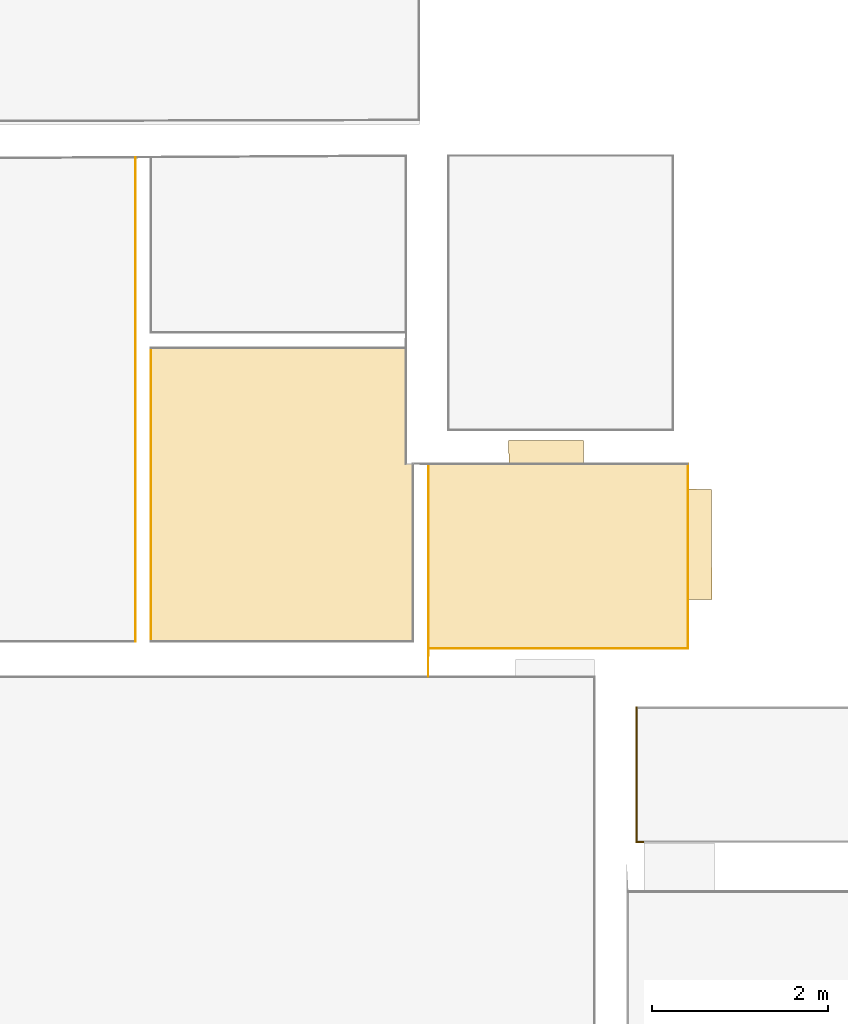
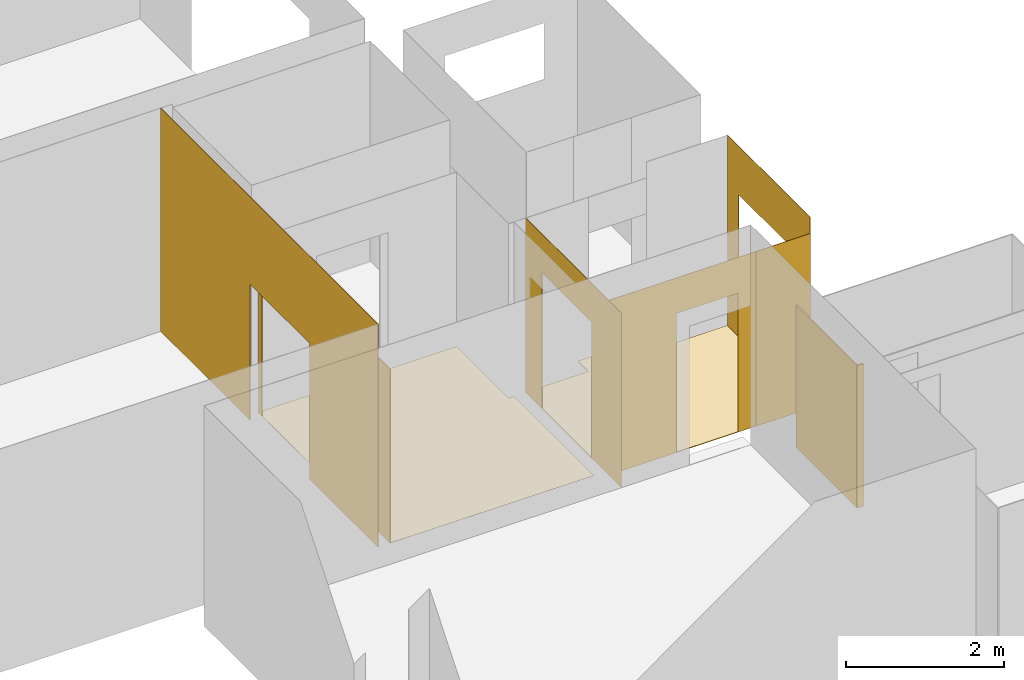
# One storey, part 13 of 33: 10 coverings, 5 openings.
"""IFC2X3 building model written with IfcOpenShell, lengths in millimetres."""

from ifc_helpers import new_model, entity, si_unit, converted_unit, derived_unit, money_unit, direction, frame, origin_with_axes, origin_2d_with_axis, place, context, subcontext, project, spatial, polyline, rectangle, outline, extrude, material, type_object, element, save


model = new_model("IFC2X3")

# Units and contexts
model_context = context("Model", 3, precision=0.01, world=origin_with_axes(), true_north=direction((0.0, 1.0)))
body_context = subcontext(model_context, "Body", "Model", "MODEL_VIEW")
ifc_project = project(units=[si_unit("LENGTHUNIT", "METRE", prefix="MILLI"), si_unit("AREAUNIT", "SQUARE_METRE"), si_unit("VOLUMEUNIT", "CUBIC_METRE"), converted_unit("PLANEANGLEUNIT", "DEGREE", entity("IfcPlaneAngleMeasure", 0.0174532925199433), si_unit("PLANEANGLEUNIT", "RADIAN"), dimensions=[0, 0, 0, 0, 0, 0, 0]), money_unit("EUR"), converted_unit("TIMEUNIT", "Year", entity("IfcTimeMeasure", 31556926.0), si_unit("TIMEUNIT", "SECOND"), dimensions=[0, 0, 1, 0, 0, 0, 0]), si_unit("MASSUNIT", "GRAM", prefix="KILO"), si_unit("THERMODYNAMICTEMPERATUREUNIT", "DEGREE_CELSIUS"), si_unit("LUMINOUSINTENSITYUNIT", "LUMEN"), si_unit("ENERGYUNIT", "JOULE", prefix="MEGA"), derived_unit("THERMALCONDUCTANCEUNIT", [(si_unit("POWERUNIT", "WATT"), 1), (si_unit("LENGTHUNIT", "METRE"), -1), (si_unit("THERMODYNAMICTEMPERATUREUNIT", "KELVIN"), -1)]), derived_unit("SPECIFICHEATCAPACITYUNIT", [(si_unit("ENERGYUNIT", "JOULE"), 1), (si_unit("MASSUNIT", "GRAM", prefix="KILO"), -1), (si_unit("THERMODYNAMICTEMPERATUREUNIT", "KELVIN"), -1)]), derived_unit("MASSDENSITYUNIT", [(si_unit("MASSUNIT", "GRAM", prefix="KILO"), 1), (si_unit("VOLUMEUNIT", "CUBIC_METRE"), -1)])], contexts=[model_context])

# Site, building, storey
site_placement = place(None, origin_with_axes())
site = spatial("IfcSite", under=ifc_project, at=site_placement, Name="Paldiski mnt 245/1, Tallinn, Harjumaa", CompositionType="COMPLEX")
building_placement = place(site_placement, origin_with_axes())
building = spatial("IfcBuilding", under=site, at=building_placement, Name="RKAS Hoone üldnimetus (kasutust iseloomustav) -> IFC Project Manager -> SOLIBRI", CompositionType="ELEMENT")
storey_placement = place(building_placement, origin_with_axes())
storey = spatial("IfcBuildingStorey", under=building, at=storey_placement, Name="Esimene korrus", CompositionType="ELEMENT", Elevation=0.0)

# Coverings
ifc_material_1 = material(Name="SA- PM-7 plaat 15x15")
covering_type_1 = type_object("IfcCoveringType", Name="SA- PM-7 plaat 15x15 8", PredefinedType="FLOORING")
covering_1_placement = place(storey_placement, frame((-49299.99999999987, 6150.000000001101, 0.0), z_axis=(0.0, 0.0, 1.0), x_axis=(1.0, 0.0, 0.0)))
element("IfcCovering", 1, at=covering_1_placement, inside=storey, type_object=covering_type_1, material=ifc_material_1, Name="PM-7", PredefinedType="FLOORING", context=body_context, shape_type="SweptSolid", body=[
    extrude(outline(polyline([(0.0, 0.0), (1960.000000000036, 0.0), (1960.000000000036, 559.8287243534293), (2230.000000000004, 559.8287118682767), (2227.902222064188, 1809.846262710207), (1959.999995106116, 1812.089257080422), (1960.000000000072, 2099.99999999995), (775.0024094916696, 2099.999999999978), (774.7929300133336, 2365.175309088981), (-75.58296767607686, 2365.417993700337), (-74.99758190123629, 2099.999999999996), (-989.999999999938, 2100.000000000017), (-989.9999999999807, 0.0), (0.0, 0.0)])), origin_with_axes(), (0.0, 0.0, 1.0), 8.0),
])
ifc_material_2 = material(Name="SA- Värv SM5(valge)")
covering_type_2 = type_object("IfcCoveringType", Name="SA- Värv SM5(valge) 5", PredefinedType="CLADDING")
covering_2_placement = place(storey_placement, frame((-48139.99999999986, 6150.00000000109, 0.0), z_axis=(0.0, 0.0, 1.0), x_axis=(1.0, 0.0, 0.0)))
element("IfcCovering", 2, at=covering_2_placement, inside=storey, type_object=covering_type_2, material=ifc_material_2, Name="SM5", PredefinedType="CLADDING", context=body_context, shape_type="SweptSolid", body=[
    extrude(outline(polyline([(0.0, 0.0), (800.0000000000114, 0.0), (800.0000000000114, 4.999999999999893), (0.0, 4.999999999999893), (0.0, 0.0)])), origin_with_axes(), (0.0, 0.0, 1.0), 2700.0),
])

# Covering, opening
covering_3_placement = place(storey_placement, frame((-50289.99999999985, 6150.000000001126, 0.0), z_axis=(0.0, 0.0, 1.0), x_axis=(1.0, 0.0, 0.0)))
covering_3 = element("IfcCovering", 3, at=covering_3_placement, inside=storey, type_object=covering_type_2, material=ifc_material_2, Name="SM5", PredefinedType="CLADDING", context=body_context, shape_type="SweptSolid", body=[
    extrude(outline(polyline([(5.000000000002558, 0.0), (2149.999999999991, 0.0), (2149.999999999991, 4.999999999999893), (5.000000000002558, 4.999999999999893), (5.000000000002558, 0.0)])), origin_with_axes(), (0.0, 0.0, 1.0), 2700.0),
])
opening_1_placement = place(covering_3_placement, frame((50289.99999999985, -6150.000000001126, 0.0), z_axis=(0.0, 0.0, 1.0), x_axis=(1.0, 0.0, 0.0)))
element("IfcOpeningElement", 4, at=opening_1_placement, cuts=covering_3, Name="AVA", ObjectType="OPENING", context=body_context, shape_type="SweptSolid", body=[
    extrude(rectangle(XDim=899.999999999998, YDim=2150.0, at=origin_2d_with_axis()), frame((-48849.99999999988, 6145.000000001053, 1075.0), z_axis=(0.0, -1.0, 0.0), x_axis=(1.0, 0.0, 0.0)), (0.0, 0.0, -1.0), 15.00000000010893),
])

covering_4_placement = place(storey_placement, frame((-50289.99999999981, 8250.000000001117, 0.0), z_axis=(0.0, 0.0, 1.0), x_axis=(0.0, -1.0, 0.0)))
covering_4 = element("IfcCovering", 5, at=covering_4_placement, inside=storey, type_object=covering_type_2, material=ifc_material_2, Name="SM5", PredefinedType="CLADDING", context=body_context, shape_type="SweptSolid", body=[
    extrude(outline(polyline([(0.0, 0.0), (2419.999999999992, 0.0), (2099.999999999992, 5.000000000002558), (0.0, 5.000000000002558), (0.0, 0.0)])), origin_with_axes(), (0.0, 0.0, 1.0), 2700.0),
])
opening_2_placement = place(covering_4_placement, frame((8250.000000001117, 50289.99999999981, 0.0), z_axis=(0.0, 0.0, 1.0), x_axis=(0.0, 1.0, 0.0)))
element("IfcOpeningElement", 6, at=opening_2_placement, cuts=covering_4, Name="AVA", ObjectType="OPENING", context=body_context, shape_type="SweptSolid", body=[
    extrude(rectangle(XDim=1249.999999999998, YDim=2100.0, at=origin_2d_with_axis()), frame((-50294.99999999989, 7209.828724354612, 1050.0), z_axis=(-1.0, 0.0, 0.0), x_axis=(0.0, -1.0, 0.0)), (0.0, 0.0, -1.0), 15.00000000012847),
])

covering_5_placement = place(storey_placement, frame((-53609.99755085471, 11731.69176676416, 0.0), z_axis=(0.0, 0.0, 1.0), x_axis=(0.0, -1.0, 0.0)))
covering_5 = element("IfcCovering", 7, at=covering_5_placement, inside=storey, type_object=covering_type_2, material=ifc_material_2, Name="SM5", PredefinedType="CLADDING", context=body_context, shape_type="SweptSolid", body=[
    extrude(outline(polyline([(0.02815315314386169, -5.000000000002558), (5501.691766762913, -5.000000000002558), (5501.691766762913, 0.0), (0.0, 0.0), (0.02815315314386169, -5.000000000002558)])), origin_with_axes(), (0.0, 0.0, 1.0), 3450.0),
])
opening_3_placement = place(covering_5_placement, frame((11731.69176676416, 53609.99755085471, 0.0), z_axis=(0.0, 0.0, 1.0), x_axis=(0.0, 1.0, 0.0)))
element("IfcOpeningElement", 8, at=opening_3_placement, cuts=covering_5, Name="AVA", ObjectType="OPENING", context=body_context, shape_type="SweptSolid", body=[
    extrude(rectangle(XDim=1500.0, YDim=2100.0, at=origin_2d_with_axis()), frame((-53619.99755085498, 8715.968231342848, 1050.0), z_axis=(-1.0, 0.0, 0.0), x_axis=(0.0, -1.0, 0.0)), (0.0, 0.0, -1.0), 15.00000000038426),
])

covering_6_placement = place(storey_placement, frame((-53439.99755085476, 9565.968231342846, 0.0), z_axis=(0.0, 0.0, 1.0), x_axis=(0.0, -1.0, 0.0)))
covering_6 = element("IfcCovering", 9, at=covering_6_placement, inside=storey, type_object=covering_type_2, material=ifc_material_2, Name="SM5", PredefinedType="CLADDING", context=body_context, shape_type="SweptSolid", body=[
    extrude(outline(polyline([(4.999999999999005, 0.0), (3335.9682313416, 0.0), (3335.9682313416, 5.000000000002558), (4.999999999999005, 5.000000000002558), (4.999999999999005, 0.0)])), origin_with_axes(), (0.0, 0.0, 1.0), 2700.0),
])
opening_4_placement = place(covering_6_placement, frame((9565.968231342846, 53439.99755085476, 0.0), z_axis=(0.0, 0.0, 1.0), x_axis=(0.0, 1.0, 0.0)))
element("IfcOpeningElement", 10, at=opening_4_placement, cuts=covering_6, Name="AVA", ObjectType="OPENING", context=body_context, shape_type="SweptSolid", body=[
    extrude(rectangle(XDim=1500.0, YDim=2100.000000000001, at=origin_2d_with_axis()), frame((-53444.99755085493, 8715.968231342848, 1050.0), z_axis=(-1.0, 0.0, 0.0), x_axis=(0.0, -1.0, 0.0)), (0.0, 0.0, -1.0), 15.00000000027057),
])

ifc_material_3 = material(Name="SA- Värv SM7(beez)")
covering_type_3 = type_object("IfcCoveringType", Name="SA- Värv SM7(beez) 5", PredefinedType="CLADDING")
covering_7_placement = place(storey_placement, frame((-47339.99999999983, 6150.000000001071, 0.0), z_axis=(0.0, 0.0, 1.0), x_axis=(0.0, 1.0, 0.0)))
covering_7 = element("IfcCovering", 11, at=covering_7_placement, inside=storey, type_object=covering_type_3, material=ifc_material_3, Name="SM7", PredefinedType="CLADDING", context=body_context, shape_type="SweptSolid", body=[
    extrude(outline(polyline([(4.999999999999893, 0.0), (2099.999999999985, 0.0), (2099.999999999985, 5.000000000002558), (5.000000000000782, 5.000000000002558), (4.999999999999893, 0.0)])), origin_with_axes(), (0.0, 0.0, 1.0), 2950.0),
])
opening_5_placement = place(covering_7_placement, frame((-6150.000000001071, -47339.99999999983, 0.0), z_axis=(0.0, 0.0, 1.0), x_axis=(0.0, -1.0, 0.0)))
element("IfcOpeningElement", 12, at=opening_5_placement, cuts=covering_7, Name="AVA", ObjectType="OPENING", context=body_context, shape_type="SweptSolid", body=[
    extrude(rectangle(XDim=1249.999999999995, YDim=2192.0, at=origin_2d_with_axis()), frame((-47334.99999999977, 7334.828724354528, 1104.0), z_axis=(1.0, 0.0, 0.0), x_axis=(0.0, 1.0, 0.0)), (0.0, 0.0, -1.0), 15.00000000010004),
])

# Coverings
ifc_material_4 = material(Name="SA- PM-6 vinüül")
covering_type_4 = type_object("IfcCoveringType", Name="SA- PM-6 vinüül 3", PredefinedType="FLOORING")
covering_8_placement = place(storey_placement, frame((-53439.99756553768, 6229.999988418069, 0.0), z_axis=(0.0, 0.0, 1.0), x_axis=(1.0, 0.0, 0.0)))
element("IfcCovering", 13, at=covering_8_placement, inside=storey, type_object=covering_type_4, material=ifc_material_4, Name="PM-6", PredefinedType="FLOORING", context=body_context, shape_type="SweptSolid", body=[
    extrude(outline(polyline([(0.0, 0.0), (2979.997565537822, 1.158310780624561e-05), (2979.997565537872, 2020.643282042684), (2899.999978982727, 2020.000011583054), (2899.999978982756, 3335.968242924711), (1.468291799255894e-05, 3335.968242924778), (1.46828753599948e-05, 1735.968242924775), (0.0, 0.0)])), origin_with_axes(), (0.0, 0.0, 1.0), 3.0),
])
ifc_material_5 = material(Name="SA- Laudis SM3(vert. laudis)")
covering_type_5 = type_object("IfcCoveringType", Name="SA- Laudis SM3(vert. laudis) 18", PredefinedType="CLADDING")
covering_9_placement = place(storey_placement, frame((-47932.99999999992, 3946.82872435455, 0.0), z_axis=(0.0, 0.0, 1.0), x_axis=(0.0, 1.0, 0.0)))
element("IfcCovering", 14, at=covering_9_placement, inside=storey, type_object=covering_type_5, material=ifc_material_5, Name="SM3", PredefinedType="CLADDING", context=body_context, shape_type="SweptSolid", body=[
    extrude(outline(polyline([(0.0, -18.00000000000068), (1546.171275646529, -18.00000000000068), (1546.171275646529, 0.0), (0.0, 0.0), (0.0, -18.00000000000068)])), origin_with_axes(), (0.0, 0.0, 1.0), 2200.0),
])
covering_10_placement = place(storey_placement, frame((-47839.99999999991, 3946.828724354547, 0.0), z_axis=(0.0, 0.0, 1.0), x_axis=(-1.0, 0.0, 0.0)))
element("IfcCovering", 15, at=covering_10_placement, inside=storey, type_object=covering_type_5, material=ifc_material_5, Name="SM3", PredefinedType="CLADDING", context=body_context, shape_type="SweptSolid", body=[
    extrude(outline(polyline([(0.0, -17.99999999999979), (93.00000000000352, -17.99999999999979), (93.00000000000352, 0.0), (0.0, 0.0), (0.0, -17.99999999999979)])), origin_with_axes(), (0.0, 0.0, 1.0), 2200.0),
])

save(model, "model.ifc")
